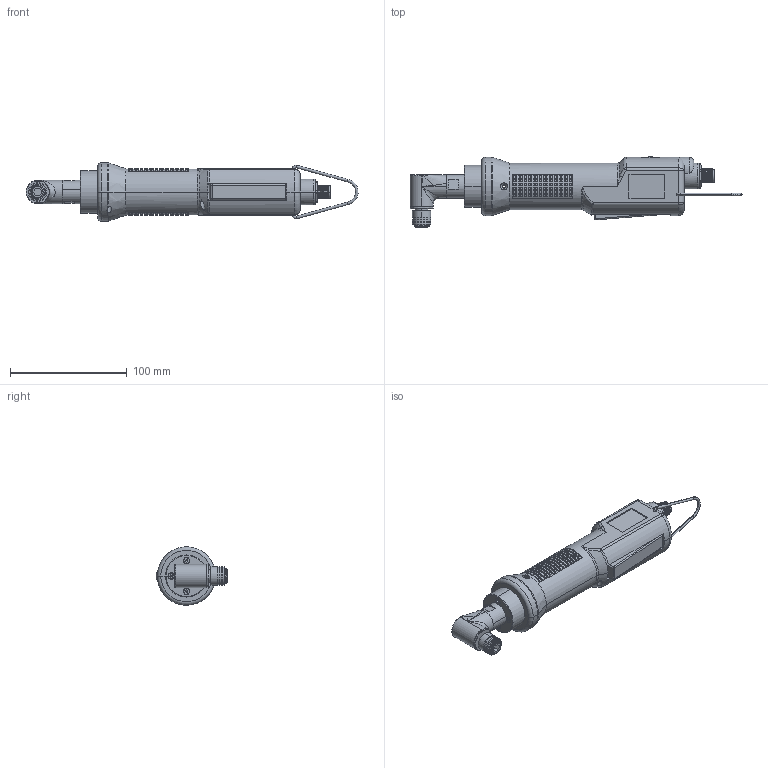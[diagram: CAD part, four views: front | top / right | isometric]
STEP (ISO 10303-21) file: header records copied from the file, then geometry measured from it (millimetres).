
FILE_DESCRIPTION (( 'STEP AP214' ), '1' );
FILE_NAME ('Pluto 3-6-10TA-ANG + testina CP.STEP', '2022-01-24T09:07:17', ( '' ), ( '' ), 'SwSTEP 2.0', 'SolidWorks 2021', '' );
FILE_SCHEMA (( 'AUTOMOTIVE_DESIGN' ));
Length unit declared in the file: millimetre
Products named in the file (1): Pluto 3-6-10TA-ANG  + testina CP
Bounding box: 284.46 x 61.32 x 50 mm (x, y, z)
Surface area: 46035.2 mm2 (no closed solid volume)
Topology: 0 solids, 41 shells, 1471 faces, 3908 edges, 2607 vertices
Faces by surface type: plane 920, cylinder 354, bspline 81, torus 66, cone 39, sphere 11
Entity records: 73978 total; most frequent: CARTESIAN_POINT 21737, DIRECTION 7544, ORIENTED_EDGE 7130, EDGE_CURVE 3857, AXIS2_PLACEMENT_3D 2721, VERTEX_POINT 2601, VECTOR 2102, LINE 2102
